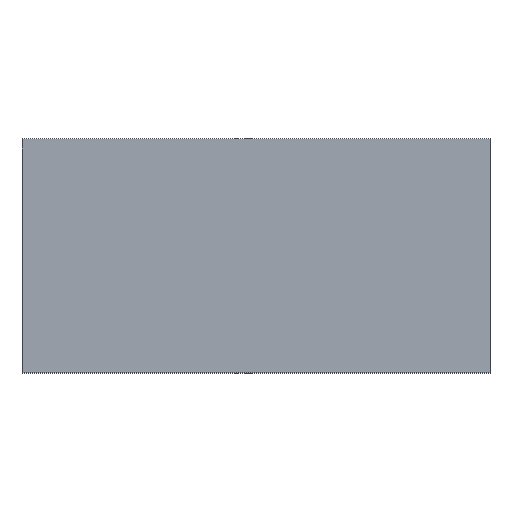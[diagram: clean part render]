
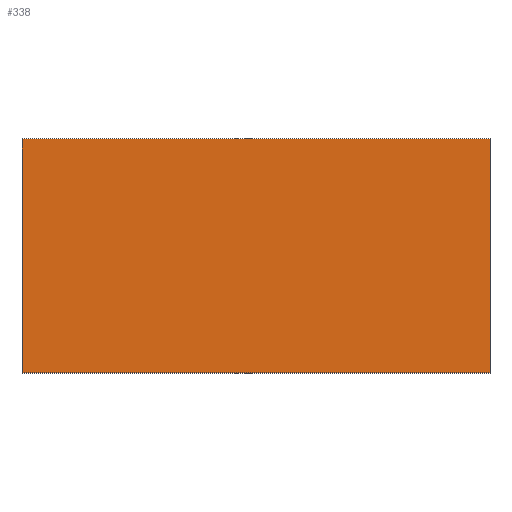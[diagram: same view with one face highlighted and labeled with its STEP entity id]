
A CAD part, top view. The second image highlights one B-rep face of the part: STEP entity #338.
In plain terms, the highlighted planar face has unit normal (0, 0, 1).
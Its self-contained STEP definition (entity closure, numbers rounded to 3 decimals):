
#24 = VERTEX_POINT('',#25);
#25 = CARTESIAN_POINT('',(-4.,59.5,25.4));
#32 = PLANE('',#33);
#33 = AXIS2_PLACEMENT_3D('',#34,#35,#36);
#34 = CARTESIAN_POINT('',(-4.,59.5,24.6));
#35 = DIRECTION('',(1.,0.,0.));
#36 = DIRECTION('',(0.,0.,1.));
#44 = PLANE('',#45);
#45 = AXIS2_PLACEMENT_3D('',#46,#47,#48);
#46 = CARTESIAN_POINT('',(-4.,59.5,24.6));
#47 = DIRECTION('',(0.,1.,0.));
#48 = DIRECTION('',(0.,0.,1.));
#85 = VERTEX_POINT('',#86);
#86 = CARTESIAN_POINT('',(-4.,63.5,25.4));
#100 = PLANE('',#101);
#101 = AXIS2_PLACEMENT_3D('',#102,#103,#104);
#102 = CARTESIAN_POINT('',(-4.,63.5,24.6));
#103 = DIRECTION('',(0.,1.,0.));
#104 = DIRECTION('',(0.,0.,1.));
#112 = EDGE_CURVE('',#24,#85,#113,.T.);
#113 = SURFACE_CURVE('',#114,(#118,#125),.PCURVE_S1.);
#114 = LINE('',#115,#116);
#115 = CARTESIAN_POINT('',(-4.,59.5,25.4));
#116 = VECTOR('',#117,1.);
#117 = DIRECTION('',(0.,1.,0.));
#118 = PCURVE('',#32,#119);
#119 = DEFINITIONAL_REPRESENTATION('',(#120),#124);
#120 = LINE('',#121,#122);
#121 = CARTESIAN_POINT('',(0.8,0.));
#122 = VECTOR('',#123,1.);
#123 = DIRECTION('',(0.,-1.));
#124 = ( GEOMETRIC_REPRESENTATION_CONTEXT(2) 
PARAMETRIC_REPRESENTATION_CONTEXT() REPRESENTATION_CONTEXT('2D SPACE',''
  ) );
#125 = PCURVE('',#126,#131);
#126 = PLANE('',#127);
#127 = AXIS2_PLACEMENT_3D('',#128,#129,#130);
#128 = CARTESIAN_POINT('',(-4.,59.5,25.4));
#129 = DIRECTION('',(0.,0.,1.));
#130 = DIRECTION('',(1.,0.,0.));
#131 = DEFINITIONAL_REPRESENTATION('',(#132),#136);
#132 = LINE('',#133,#134);
#133 = CARTESIAN_POINT('',(0.,0.));
#134 = VECTOR('',#135,1.);
#135 = DIRECTION('',(0.,1.));
#136 = ( GEOMETRIC_REPRESENTATION_CONTEXT(2) 
PARAMETRIC_REPRESENTATION_CONTEXT() REPRESENTATION_CONTEXT('2D SPACE',''
  ) );
#144 = VERTEX_POINT('',#145);
#145 = CARTESIAN_POINT('',(4.,59.5,25.4));
#152 = PLANE('',#153);
#153 = AXIS2_PLACEMENT_3D('',#154,#155,#156);
#154 = CARTESIAN_POINT('',(4.,59.5,24.6));
#155 = DIRECTION('',(1.,0.,0.));
#156 = DIRECTION('',(0.,0.,1.));
#195 = VERTEX_POINT('',#196);
#196 = CARTESIAN_POINT('',(4.,63.5,25.4));
#217 = EDGE_CURVE('',#144,#195,#218,.T.);
#218 = SURFACE_CURVE('',#219,(#223,#230),.PCURVE_S1.);
#219 = LINE('',#220,#221);
#220 = CARTESIAN_POINT('',(4.,59.5,25.4));
#221 = VECTOR('',#222,1.);
#222 = DIRECTION('',(0.,1.,0.));
#223 = PCURVE('',#152,#224);
#224 = DEFINITIONAL_REPRESENTATION('',(#225),#229);
#225 = LINE('',#226,#227);
#226 = CARTESIAN_POINT('',(0.8,0.));
#227 = VECTOR('',#228,1.);
#228 = DIRECTION('',(0.,-1.));
#229 = ( GEOMETRIC_REPRESENTATION_CONTEXT(2) 
PARAMETRIC_REPRESENTATION_CONTEXT() REPRESENTATION_CONTEXT('2D SPACE',''
  ) );
#230 = PCURVE('',#126,#231);
#231 = DEFINITIONAL_REPRESENTATION('',(#232),#236);
#232 = LINE('',#233,#234);
#233 = CARTESIAN_POINT('',(8.,0.));
#234 = VECTOR('',#235,1.);
#235 = DIRECTION('',(0.,1.));
#236 = ( GEOMETRIC_REPRESENTATION_CONTEXT(2) 
PARAMETRIC_REPRESENTATION_CONTEXT() REPRESENTATION_CONTEXT('2D SPACE',''
  ) );
#263 = EDGE_CURVE('',#24,#144,#264,.T.);
#264 = SURFACE_CURVE('',#265,(#269,#276),.PCURVE_S1.);
#265 = LINE('',#266,#267);
#266 = CARTESIAN_POINT('',(-4.,59.5,25.4));
#267 = VECTOR('',#268,1.);
#268 = DIRECTION('',(1.,0.,0.));
#269 = PCURVE('',#44,#270);
#270 = DEFINITIONAL_REPRESENTATION('',(#271),#275);
#271 = LINE('',#272,#273);
#272 = CARTESIAN_POINT('',(0.8,0.));
#273 = VECTOR('',#274,1.);
#274 = DIRECTION('',(0.,1.));
#275 = ( GEOMETRIC_REPRESENTATION_CONTEXT(2) 
PARAMETRIC_REPRESENTATION_CONTEXT() REPRESENTATION_CONTEXT('2D SPACE',''
  ) );
#276 = PCURVE('',#126,#277);
#277 = DEFINITIONAL_REPRESENTATION('',(#278),#282);
#278 = LINE('',#279,#280);
#279 = CARTESIAN_POINT('',(0.,0.));
#280 = VECTOR('',#281,1.);
#281 = DIRECTION('',(1.,0.));
#282 = ( GEOMETRIC_REPRESENTATION_CONTEXT(2) 
PARAMETRIC_REPRESENTATION_CONTEXT() REPRESENTATION_CONTEXT('2D SPACE',''
  ) );
#310 = EDGE_CURVE('',#85,#195,#311,.T.);
#311 = SURFACE_CURVE('',#312,(#316,#323),.PCURVE_S1.);
#312 = LINE('',#313,#314);
#313 = CARTESIAN_POINT('',(-4.,63.5,25.4));
#314 = VECTOR('',#315,1.);
#315 = DIRECTION('',(1.,0.,0.));
#316 = PCURVE('',#100,#317);
#317 = DEFINITIONAL_REPRESENTATION('',(#318),#322);
#318 = LINE('',#319,#320);
#319 = CARTESIAN_POINT('',(0.8,0.));
#320 = VECTOR('',#321,1.);
#321 = DIRECTION('',(0.,1.));
#322 = ( GEOMETRIC_REPRESENTATION_CONTEXT(2) 
PARAMETRIC_REPRESENTATION_CONTEXT() REPRESENTATION_CONTEXT('2D SPACE',''
  ) );
#323 = PCURVE('',#126,#324);
#324 = DEFINITIONAL_REPRESENTATION('',(#325),#329);
#325 = LINE('',#326,#327);
#326 = CARTESIAN_POINT('',(0.,4.));
#327 = VECTOR('',#328,1.);
#328 = DIRECTION('',(1.,0.));
#329 = ( GEOMETRIC_REPRESENTATION_CONTEXT(2) 
PARAMETRIC_REPRESENTATION_CONTEXT() REPRESENTATION_CONTEXT('2D SPACE',''
  ) );
#338 = ADVANCED_FACE('',(#339),#126,.T.);
#339 = FACE_BOUND('',#340,.T.);
#340 = EDGE_LOOP('',(#341,#342,#343,#344));
#341 = ORIENTED_EDGE('',*,*,#112,.F.);
#342 = ORIENTED_EDGE('',*,*,#263,.T.);
#343 = ORIENTED_EDGE('',*,*,#217,.T.);
#344 = ORIENTED_EDGE('',*,*,#310,.F.);
